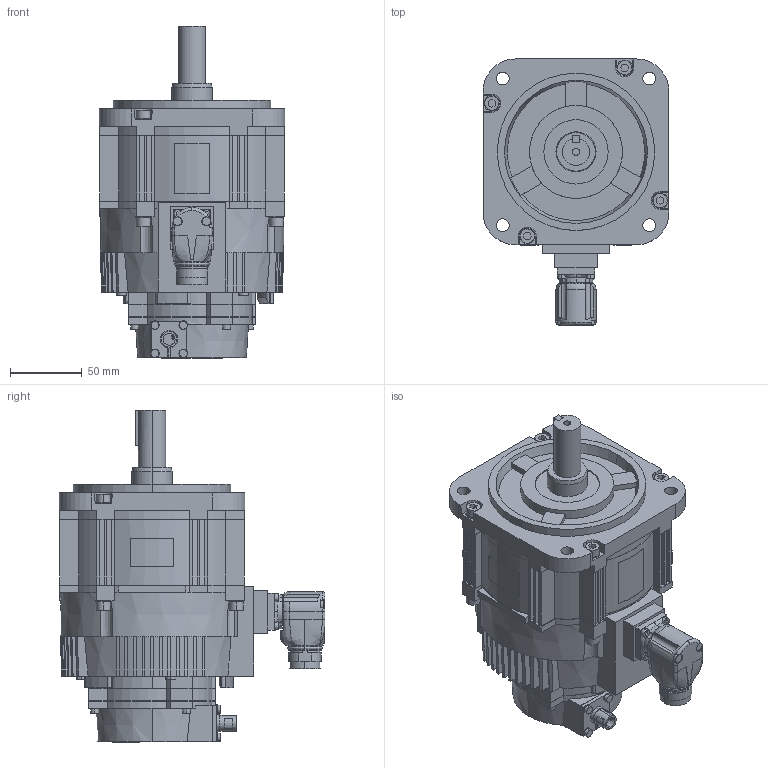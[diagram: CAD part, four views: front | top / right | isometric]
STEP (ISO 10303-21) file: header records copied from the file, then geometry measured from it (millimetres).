
FILE_DESCRIPTION (( 'STEP AP203' ), '1' );
FILE_NAME ('sgm7g_09d_rkh.STEP', '2016-08-20T16:37:58', ( '安川電機' ), ( 'YASKAWA' ), 'SwSTEP 2.0', 'SolidWorks 2006303', '' );
FILE_SCHEMA (( 'CONFIG_CONTROL_DESIGN' ));
Length unit declared in the file: millimetre
Products named in the file (4): sgm7g_09d_rkh; sgm7g_09d_rkh_base; sgm7g_09d_rkh_key; sgm7g_09d_rkh_connector
Assembly tree (3 placements, depth 2):
  sgm7g_09d_rkh
    sgm7g_09d_rkh_connector
    sgm7g_09d_rkh_base
    sgm7g_09d_rkh_key
Bounding box: 130 x 185.9 x 232.1 mm (x, y, z)
Volume: 2079488.5 mm3; surface area: 158641.6 mm2
Topology: 3 solids, 3 shells, 1073 faces, 2774 edges, 1793 vertices
Faces by surface type: plane 684, cylinder 260, cone 100, bspline 20, torus 9
Entity records: 34836 total; most frequent: CARTESIAN_POINT 8012, ORIENTED_EDGE 5544, DIRECTION 5497, EDGE_CURVE 2772, AXIS2_PLACEMENT_3D 1913, VERTEX_POINT 1793, VECTOR 1671, LINE 1671
